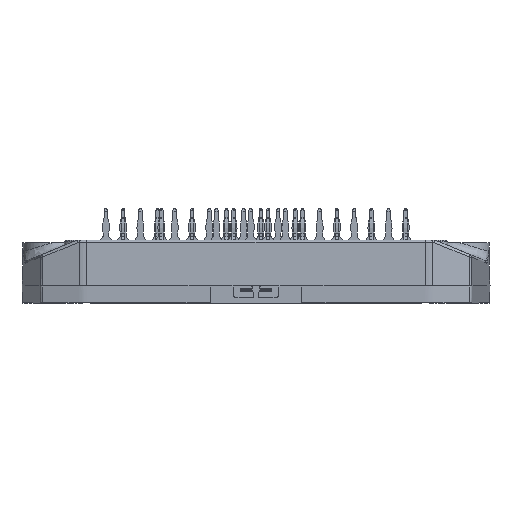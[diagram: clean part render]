
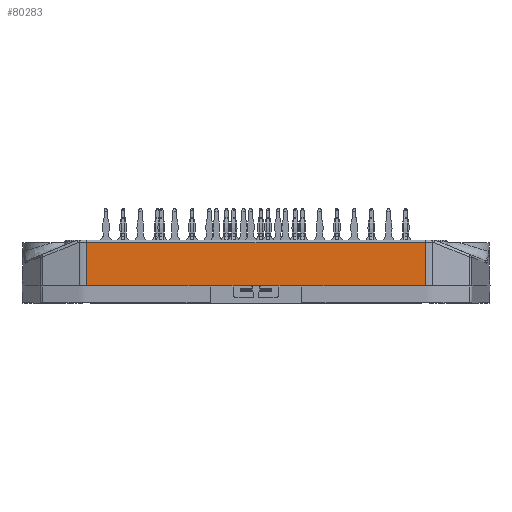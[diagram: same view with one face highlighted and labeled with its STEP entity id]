
A CAD part, front view. The second image highlights one B-rep face of the part: STEP entity #80283.
In plain terms, the highlighted planar face has unit normal (0, -1, 0.026).
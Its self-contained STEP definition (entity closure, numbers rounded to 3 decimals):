
#11499=ORIENTED_EDGE('',*,*,#26478,.F.);
#11500=ORIENTED_EDGE('',*,*,#26475,.T.);
#11501=ORIENTED_EDGE('',*,*,#26704,.F.);
#11502=ORIENTED_EDGE('',*,*,#25946,.F.);
#11503=ORIENTED_EDGE('',*,*,#25951,.T.);
#11504=ORIENTED_EDGE('',*,*,#26404,.T.);
#11505=ORIENTED_EDGE('',*,*,#26705,.T.);
#11506=ORIENTED_EDGE('',*,*,#26698,.F.);
#11507=ORIENTED_EDGE('',*,*,#26706,.T.);
#11508=ORIENTED_EDGE('',*,*,#26707,.F.);
#11509=ORIENTED_EDGE('',*,*,#26708,.F.);
#11510=ORIENTED_EDGE('',*,*,#26709,.F.);
#25946=EDGE_CURVE('',#33567,#33563,#38912,.F.);
#25951=EDGE_CURVE('',#33567,#33572,#38916,.T.);
#26404=EDGE_CURVE('',#33572,#33872,#39125,.T.);
#26475=EDGE_CURVE('',#33917,#33913,#39163,.F.);
#26478=EDGE_CURVE('',#33917,#33921,#39166,.T.);
#26698=EDGE_CURVE('',#33500,#33718,#39272,.T.);
#26704=EDGE_CURVE('',#33563,#33913,#39278,.T.);
#26705=EDGE_CURVE('',#33872,#33718,#39279,.T.);
#26706=EDGE_CURVE('',#33500,#33498,#39280,.T.);
#26707=EDGE_CURVE('',#34062,#33498,#39281,.T.);
#26708=EDGE_CURVE('',#34064,#34062,#39282,.T.);
#26709=EDGE_CURVE('',#33921,#34064,#39283,.T.);
#33498=VERTEX_POINT('',#112434);
#33500=VERTEX_POINT('',#112439);
#33563=VERTEX_POINT('',#112794);
#33567=VERTEX_POINT('',#112806);
#33572=VERTEX_POINT('',#112817);
#33718=VERTEX_POINT('',#113728);
#33872=VERTEX_POINT('',#114778);
#33913=VERTEX_POINT('',#115092);
#33917=VERTEX_POINT('',#115104);
#33921=VERTEX_POINT('',#115114);
#34062=VERTEX_POINT('',#116029);
#34064=VERTEX_POINT('',#116042);
#38912=LINE('',#112808,#44309);
#38916=LINE('',#112818,#44313);
#39125=LINE('',#114779,#44522);
#39163=LINE('',#115107,#44560);
#39166=LINE('',#115113,#44563);
#39272=LINE('',#116024,#44669);
#39278=LINE('',#116037,#44675);
#39279=LINE('',#116038,#44676);
#39280=LINE('',#116039,#44677);
#39281=LINE('',#116040,#44678);
#39282=LINE('',#116041,#44679);
#39283=LINE('',#116043,#44680);
#44309=VECTOR('',#94193,1000.);
#44313=VECTOR('',#94201,1000.);
#44522=VECTOR('',#94946,1000.);
#44560=VECTOR('',#95062,1000.);
#44563=VECTOR('',#95067,1000.);
#44669=VECTOR('',#95415,1000.);
#44675=VECTOR('',#95429,1000.);
#44676=VECTOR('',#95430,1000.);
#44677=VECTOR('',#95431,1000.);
#44678=VECTOR('',#95432,1000.);
#44679=VECTOR('',#95433,1000.);
#44680=VECTOR('',#95434,1000.);
#49390=EDGE_LOOP('',(#11499,#11500,#11501,#11502,#11503,#11504,#11505,#11506,
#11507,#11508,#11509,#11510));
#52771=FACE_BOUND('',#49390,.T.);
#55294=PLANE('',#84798);
#80283=ADVANCED_FACE('',(#52771),#55294,.T.);
#84798=AXIS2_PLACEMENT_3D('',#116036,#95427,#95428);
#94193=DIRECTION('',(-0.006,-0.026,-1.));
#94201=DIRECTION('',(1.,0.,0.));
#94946=DIRECTION('',(1.,0.,0.));
#95062=DIRECTION('',(0.006,-0.026,-1.));
#95067=DIRECTION('',(-1.,0.,0.));
#95415=DIRECTION('',(-1.,0.,0.));
#95427=DIRECTION('',(0.,-1.,0.026));
#95428=DIRECTION('',(0.,0.026,1.));
#95429=DIRECTION('',(1.,0.,0.));
#95430=DIRECTION('',(1.,0.,0.));
#95431=DIRECTION('',(1.,0.,0.));
#95432=DIRECTION('',(-1.,0.,0.));
#95433=DIRECTION('',(-1.,0.,0.));
#95434=DIRECTION('',(-1.,0.,0.));
#112434=CARTESIAN_POINT('',(0.827,-30.776,2.02));
#112439=CARTESIAN_POINT('',(-0.827,-30.776,2.02));
#112794=CARTESIAN_POINT('',(-29.469,-30.58,9.533));
#112806=CARTESIAN_POINT('',(-29.513,-30.776,2.02));
#112808=CARTESIAN_POINT('',(-29.512,-30.775,2.087));
#112817=CARTESIAN_POINT('',(-29.513,-30.776,2.02));
#112818=CARTESIAN_POINT('',(-17.961,-30.776,2.02));
#113728=CARTESIAN_POINT('',(-4.,-30.776,2.02));
#114778=CARTESIAN_POINT('',(-8.,-30.776,2.02));
#114779=CARTESIAN_POINT('',(-17.961,-30.776,2.02));
#115092=CARTESIAN_POINT('',(29.469,-30.58,9.533));
#115104=CARTESIAN_POINT('',(29.513,-30.776,2.02));
#115107=CARTESIAN_POINT('',(29.512,-30.775,2.087));
#115113=CARTESIAN_POINT('',(17.961,-30.776,2.02));
#115114=CARTESIAN_POINT('',(29.513,-30.776,2.02));
#116024=CARTESIAN_POINT('',(-17.961,-30.776,2.02));
#116029=CARTESIAN_POINT('',(4.,-30.776,2.02));
#116036=CARTESIAN_POINT('',(17.961,-30.776,2.02));
#116037=CARTESIAN_POINT('',(27.533,-30.58,9.533));
#116038=CARTESIAN_POINT('',(-17.961,-30.776,2.02));
#116039=CARTESIAN_POINT('',(-0.65,-30.776,2.02));
#116040=CARTESIAN_POINT('',(-17.961,-30.776,2.02));
#116041=CARTESIAN_POINT('',(17.961,-30.776,2.02));
#116042=CARTESIAN_POINT('',(8.,-30.776,2.02));
#116043=CARTESIAN_POINT('',(17.961,-30.776,2.02));
